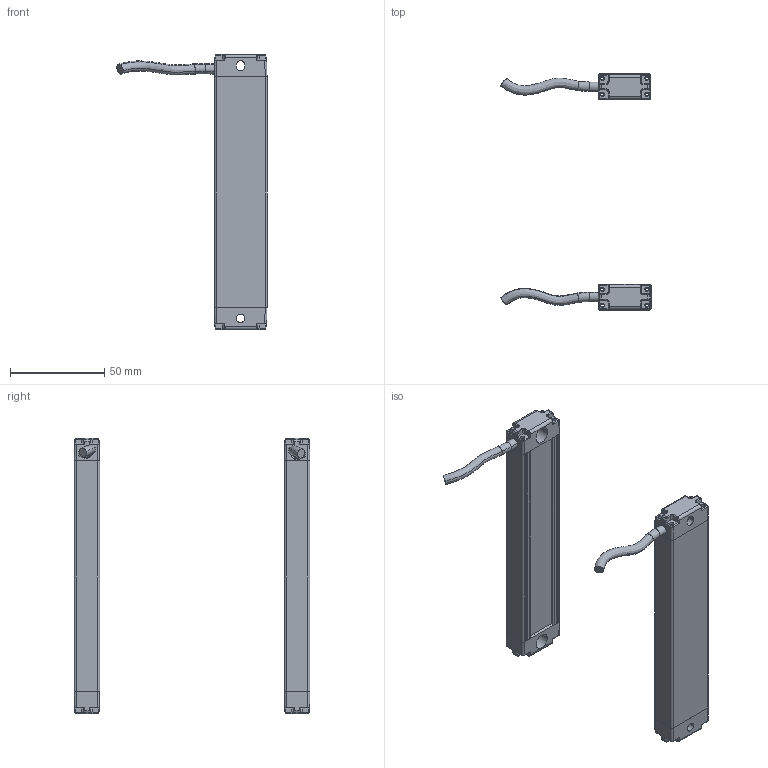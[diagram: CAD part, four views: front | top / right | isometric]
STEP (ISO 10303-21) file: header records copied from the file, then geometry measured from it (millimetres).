
FILE_DESCRIPTION(/* description */ (''),/* implementation_level */ '2;1');
FILE_NAME(/* name */ '1605（13x28w) .stp',/* time_stamp */ '2023-10-23T15:44:34+08:00',/* author */ (''),/* organization */ (''),/* preprocessor_version */ 'ST-DEVELOPER v16.7',/* originating_system */ 'SIEMENS PLM Software NX 12.0',/* authorisation */ '');
FILE_SCHEMA (('AP203_CONFIGURATION_CONTROLLED_3D_DESIGN_OF_MECHANICAL_PARTS_AND_ASSEMBLIES_MIM_LF { 1 0 10303 403 2 1 2}'));
Length unit declared in the file: millimetre
Products named in the file (1): 0805（13x28w_ _stp
Bounding box: 79.6 x 125.02 x 146 mm (x, y, z)
Volume: 46044.2 mm3; surface area: 60272.3 mm2
Topology: 10 solids, 10 shells, 760 faces, 2126 edges, 1395 vertices
Faces by surface type: plane 356, cylinder 312, torus 52, bspline 40
Entity records: 28124 total; most frequent: CARTESIAN_POINT 8715, ORIENTED_EDGE 4252, DIRECTION 3737, EDGE_CURVE 2126, VERTEX_POINT 1395, AXIS2_PLACEMENT_3D 1261, LINE 1215, VECTOR 1215
